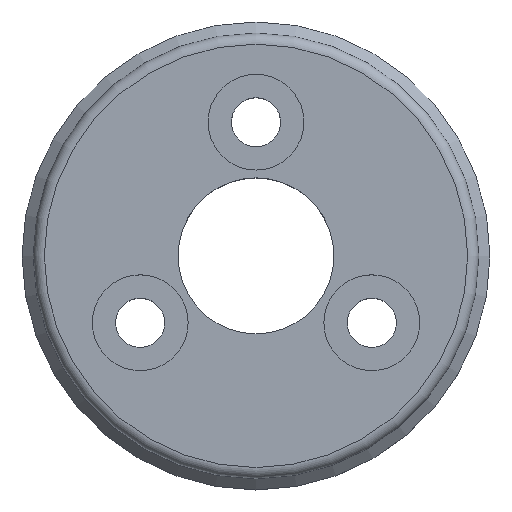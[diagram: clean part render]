
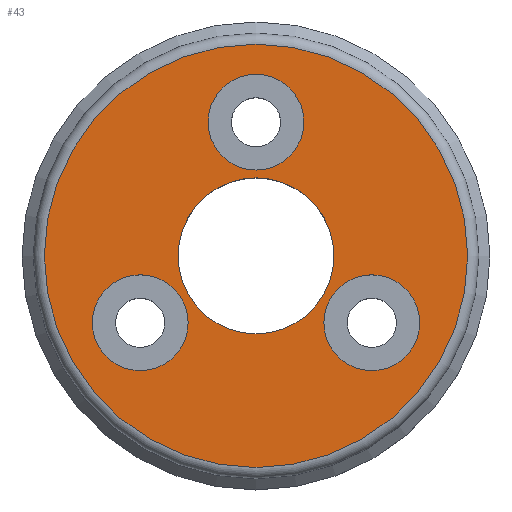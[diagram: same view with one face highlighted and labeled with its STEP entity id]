
A CAD part, top view. The second image highlights one B-rep face of the part: STEP entity #43.
In plain terms, the highlighted planar face has unit normal (0, 0, 1).
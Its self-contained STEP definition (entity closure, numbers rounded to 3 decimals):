
#37=PLANE('',#257);
#43=ADVANCED_FACE('',(#70,#71,#72,#73,#74),#37,.T.);
#70=FACE_BOUND('',#110,.T.);
#71=FACE_BOUND('',#111,.T.);
#72=FACE_BOUND('',#112,.T.);
#73=FACE_BOUND('',#113,.T.);
#74=FACE_BOUND('',#114,.T.);
#110=EDGE_LOOP('',(#150));
#111=EDGE_LOOP('',(#151));
#112=EDGE_LOOP('',(#152));
#113=EDGE_LOOP('',(#153));
#114=EDGE_LOOP('',(#154));
#150=ORIENTED_EDGE('',*,*,#210,.T.);
#151=ORIENTED_EDGE('',*,*,#211,.T.);
#152=ORIENTED_EDGE('',*,*,#212,.T.);
#153=ORIENTED_EDGE('',*,*,#213,.T.);
#154=ORIENTED_EDGE('',*,*,#214,.T.);
#190=VERTEX_POINT('',#369);
#191=VERTEX_POINT('',#371);
#192=VERTEX_POINT('',#373);
#193=VERTEX_POINT('',#375);
#194=VERTEX_POINT('',#377);
#210=EDGE_CURVE('',#190,#190,#230,.T.);
#211=EDGE_CURVE('',#191,#191,#231,.T.);
#212=EDGE_CURVE('',#192,#192,#232,.T.);
#213=EDGE_CURVE('',#193,#193,#233,.T.);
#214=EDGE_CURVE('',#194,#194,#234,.T.);
#230=CIRCLE('',#252,9.5);
#231=CIRCLE('',#253,2.15);
#232=CIRCLE('',#254,2.15);
#233=CIRCLE('',#255,2.15);
#234=CIRCLE('',#256,3.5);
#252=AXIS2_PLACEMENT_3D('',#368,#294,#295);
#253=AXIS2_PLACEMENT_3D('',#370,#296,#297);
#254=AXIS2_PLACEMENT_3D('',#372,#298,#299);
#255=AXIS2_PLACEMENT_3D('',#374,#300,#301);
#256=AXIS2_PLACEMENT_3D('',#376,#302,#303);
#257=AXIS2_PLACEMENT_3D('',#378,#304,#305);
#294=DIRECTION('',(0.,0.,1.));
#295=DIRECTION('',(1.,0.,0.));
#296=DIRECTION('',(0.,0.,-1.));
#297=DIRECTION('',(-1.,0.,0.));
#298=DIRECTION('',(0.,0.,-1.));
#299=DIRECTION('',(-1.,0.,0.));
#300=DIRECTION('',(0.,0.,-1.));
#301=DIRECTION('',(-1.,0.,0.));
#302=DIRECTION('',(0.,0.,-1.));
#303=DIRECTION('',(-1.,0.,0.));
#304=DIRECTION('',(0.,0.,1.));
#305=DIRECTION('',(1.,0.,0.));
#368=CARTESIAN_POINT('',(0.,0.,4.7));
#369=CARTESIAN_POINT('',(9.5,0.,4.7));
#370=CARTESIAN_POINT('',(5.196,-3.,4.7));
#371=CARTESIAN_POINT('',(3.046,-3.,4.7));
#372=CARTESIAN_POINT('',(-5.196,-3.,4.7));
#373=CARTESIAN_POINT('',(-7.346,-3.,4.7));
#374=CARTESIAN_POINT('',(0.,6.,4.7));
#375=CARTESIAN_POINT('',(-2.15,6.,4.7));
#376=CARTESIAN_POINT('',(0.,0.,4.7));
#377=CARTESIAN_POINT('',(-3.5,0.,4.7));
#378=CARTESIAN_POINT('',(0.,0.,4.7));
